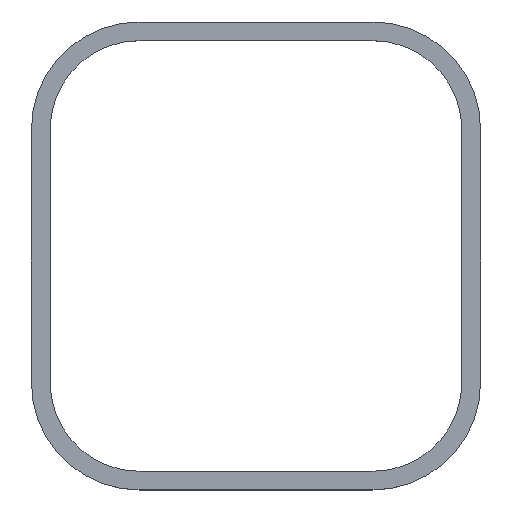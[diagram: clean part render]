
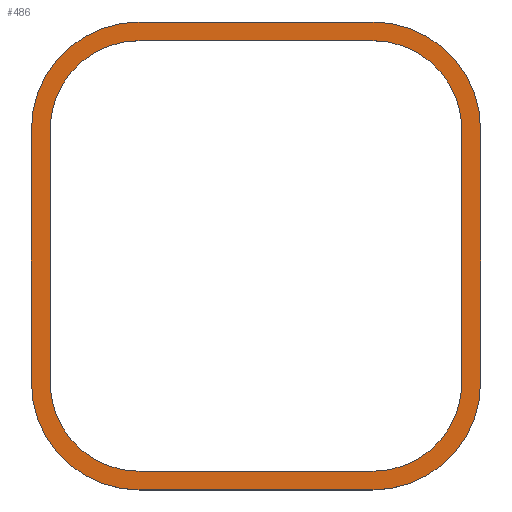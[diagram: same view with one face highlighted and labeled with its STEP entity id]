
A CAD part, top view. The second image highlights one B-rep face of the part: STEP entity #486.
In plain terms, the highlighted planar face has unit normal (0, 0, 1).
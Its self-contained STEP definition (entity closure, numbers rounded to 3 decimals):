
#27=FACE_BOUND('',#58,.T.);
#30=FACE_OUTER_BOUND('',#57,.T.);
#57=EDGE_LOOP('',(#327,#328,#329,#330,#331,#332,#333,#334));
#58=EDGE_LOOP('',(#335,#336,#337,#338,#339,#340,#341,#342));
#87=CIRCLE('',#528,11.5);
#88=CIRCLE('',#529,11.5);
#89=CIRCLE('',#530,11.5);
#90=CIRCLE('',#531,11.5);
#91=CIRCLE('',#532,9.5);
#92=CIRCLE('',#533,9.5);
#93=CIRCLE('',#534,9.5);
#94=CIRCLE('',#535,9.5);
#111=LINE('',#734,#159);
#112=LINE('',#738,#160);
#113=LINE('',#742,#161);
#114=LINE('',#746,#162);
#115=LINE('',#752,#163);
#116=LINE('',#756,#164);
#117=LINE('',#760,#165);
#118=LINE('',#763,#166);
#159=VECTOR('',#582,10.);
#160=VECTOR('',#585,10.);
#161=VECTOR('',#588,10.);
#162=VECTOR('',#591,10.);
#163=VECTOR('',#596,10.);
#164=VECTOR('',#599,10.);
#165=VECTOR('',#602,10.);
#166=VECTOR('',#605,10.);
#207=VERTEX_POINT('',#732);
#208=VERTEX_POINT('',#733);
#209=VERTEX_POINT('',#735);
#210=VERTEX_POINT('',#737);
#211=VERTEX_POINT('',#739);
#212=VERTEX_POINT('',#741);
#213=VERTEX_POINT('',#743);
#214=VERTEX_POINT('',#745);
#215=VERTEX_POINT('',#748);
#216=VERTEX_POINT('',#749);
#217=VERTEX_POINT('',#751);
#218=VERTEX_POINT('',#753);
#219=VERTEX_POINT('',#755);
#220=VERTEX_POINT('',#757);
#221=VERTEX_POINT('',#759);
#222=VERTEX_POINT('',#761);
#255=EDGE_CURVE('',#207,#208,#111,.T.);
#256=EDGE_CURVE('',#208,#209,#87,.T.);
#257=EDGE_CURVE('',#209,#210,#112,.T.);
#258=EDGE_CURVE('',#210,#211,#88,.T.);
#259=EDGE_CURVE('',#211,#212,#113,.T.);
#260=EDGE_CURVE('',#212,#213,#89,.T.);
#261=EDGE_CURVE('',#213,#214,#114,.T.);
#262=EDGE_CURVE('',#214,#207,#90,.T.);
#263=EDGE_CURVE('',#215,#216,#91,.T.);
#264=EDGE_CURVE('',#216,#217,#115,.T.);
#265=EDGE_CURVE('',#217,#218,#92,.T.);
#266=EDGE_CURVE('',#218,#219,#116,.T.);
#267=EDGE_CURVE('',#219,#220,#93,.T.);
#268=EDGE_CURVE('',#220,#221,#117,.T.);
#269=EDGE_CURVE('',#221,#222,#94,.T.);
#270=EDGE_CURVE('',#222,#215,#118,.T.);
#327=ORIENTED_EDGE('',*,*,#255,.T.);
#328=ORIENTED_EDGE('',*,*,#256,.T.);
#329=ORIENTED_EDGE('',*,*,#257,.T.);
#330=ORIENTED_EDGE('',*,*,#258,.T.);
#331=ORIENTED_EDGE('',*,*,#259,.T.);
#332=ORIENTED_EDGE('',*,*,#260,.T.);
#333=ORIENTED_EDGE('',*,*,#261,.T.);
#334=ORIENTED_EDGE('',*,*,#262,.T.);
#335=ORIENTED_EDGE('',*,*,#263,.T.);
#336=ORIENTED_EDGE('',*,*,#264,.T.);
#337=ORIENTED_EDGE('',*,*,#265,.T.);
#338=ORIENTED_EDGE('',*,*,#266,.T.);
#339=ORIENTED_EDGE('',*,*,#267,.T.);
#340=ORIENTED_EDGE('',*,*,#268,.T.);
#341=ORIENTED_EDGE('',*,*,#269,.T.);
#342=ORIENTED_EDGE('',*,*,#270,.T.);
#471=PLANE('',#527);
#486=ADVANCED_FACE('',(#30,#27),#471,.T.);
#527=AXIS2_PLACEMENT_3D('',#731,#580,#581);
#528=AXIS2_PLACEMENT_3D('',#736,#583,#584);
#529=AXIS2_PLACEMENT_3D('',#740,#586,#587);
#530=AXIS2_PLACEMENT_3D('',#744,#589,#590);
#531=AXIS2_PLACEMENT_3D('',#747,#592,#593);
#532=AXIS2_PLACEMENT_3D('',#750,#594,#595);
#533=AXIS2_PLACEMENT_3D('',#754,#597,#598);
#534=AXIS2_PLACEMENT_3D('',#758,#600,#601);
#535=AXIS2_PLACEMENT_3D('',#762,#603,#604);
#580=DIRECTION('center_axis',(0.,0.,1.));
#581=DIRECTION('ref_axis',(1.,0.,0.));
#582=DIRECTION('',(-1.,0.,0.));
#583=DIRECTION('center_axis',(0.,0.,1.));
#584=DIRECTION('ref_axis',(1.,0.,0.));
#585=DIRECTION('',(0.,-1.,0.));
#586=DIRECTION('center_axis',(0.,0.,1.));
#587=DIRECTION('ref_axis',(1.,0.,0.));
#588=DIRECTION('',(1.,0.,0.));
#589=DIRECTION('center_axis',(0.,0.,1.));
#590=DIRECTION('ref_axis',(1.,0.,0.));
#591=DIRECTION('',(0.,1.,0.));
#592=DIRECTION('center_axis',(0.,0.,1.));
#593=DIRECTION('ref_axis',(1.,0.,0.));
#594=DIRECTION('center_axis',(0.,0.,-1.));
#595=DIRECTION('ref_axis',(1.,0.,0.));
#596=DIRECTION('',(0.,1.,0.));
#597=DIRECTION('center_axis',(0.,0.,-1.));
#598=DIRECTION('ref_axis',(1.,0.,0.));
#599=DIRECTION('',(1.,0.,0.));
#600=DIRECTION('center_axis',(0.,0.,-1.));
#601=DIRECTION('ref_axis',(1.,0.,0.));
#602=DIRECTION('',(0.,-1.,0.));
#603=DIRECTION('center_axis',(0.,0.,-1.));
#604=DIRECTION('ref_axis',(1.,0.,0.));
#605=DIRECTION('',(-1.,0.,0.));
#731=CARTESIAN_POINT('Origin',(0.,37.5,1.55));
#732=CARTESIAN_POINT('',(12.5,62.5,1.55));
#733=CARTESIAN_POINT('',(-12.5,62.5,1.55));
#734=CARTESIAN_POINT('',(0.,62.5,1.55));
#735=CARTESIAN_POINT('',(-24.,51.,1.55));
#736=CARTESIAN_POINT('Origin',(-12.5,51.,1.55));
#737=CARTESIAN_POINT('',(-24.,24.,1.55));
#738=CARTESIAN_POINT('',(-24.,37.5,1.55));
#739=CARTESIAN_POINT('',(-12.5,12.5,1.55));
#740=CARTESIAN_POINT('Origin',(-12.5,24.,1.55));
#741=CARTESIAN_POINT('',(12.5,12.5,1.55));
#742=CARTESIAN_POINT('',(0.,12.5,1.55));
#743=CARTESIAN_POINT('',(24.,24.,1.55));
#744=CARTESIAN_POINT('Origin',(12.5,24.,1.55));
#745=CARTESIAN_POINT('',(24.,51.,1.55));
#746=CARTESIAN_POINT('',(24.,37.5,1.55));
#747=CARTESIAN_POINT('Origin',(12.5,51.,1.55));
#748=CARTESIAN_POINT('',(-12.5,14.5,1.55));
#749=CARTESIAN_POINT('',(-22.,24.,1.55));
#750=CARTESIAN_POINT('Origin',(-12.5,24.,1.55));
#751=CARTESIAN_POINT('',(-22.,51.,1.55));
#752=CARTESIAN_POINT('',(-22.,37.5,1.55));
#753=CARTESIAN_POINT('',(-12.5,60.5,1.55));
#754=CARTESIAN_POINT('Origin',(-12.5,51.,1.55));
#755=CARTESIAN_POINT('',(12.5,60.5,1.55));
#756=CARTESIAN_POINT('',(0.,60.5,1.55));
#757=CARTESIAN_POINT('',(22.,51.,1.55));
#758=CARTESIAN_POINT('Origin',(12.5,51.,1.55));
#759=CARTESIAN_POINT('',(22.,24.,1.55));
#760=CARTESIAN_POINT('',(22.,37.5,1.55));
#761=CARTESIAN_POINT('',(12.5,14.5,1.55));
#762=CARTESIAN_POINT('Origin',(12.5,24.,1.55));
#763=CARTESIAN_POINT('',(0.,14.5,1.55));
